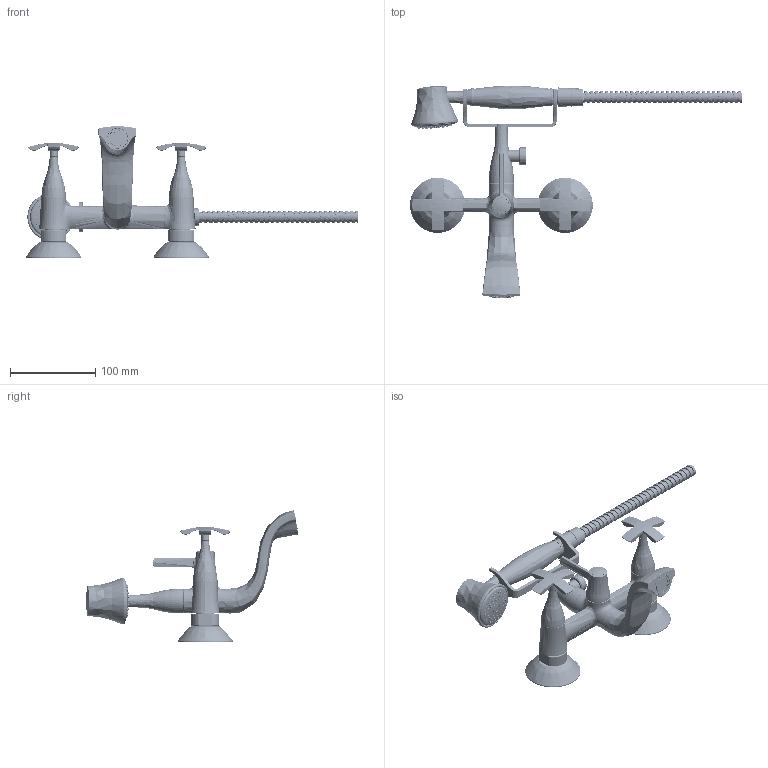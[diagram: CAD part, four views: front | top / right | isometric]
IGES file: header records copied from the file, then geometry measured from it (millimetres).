
Start section:  PTC IGES file: 62002.igs
Global section: file name: 62002.igs; native system: Creo Parametric by PTC Inc.; preprocessor: 2022014; author: carloff; organization: Unknown; date: 20260407.134453; units: millimetre
Bounding box: 390.5 x 249.96 x 154.69 mm (x, y, z)
Surface area: 211435.7 mm2 (no closed solid volume)
Topology: 0 solids, 0 shells, 3232 faces, 15654 edges, 15628 vertices
Faces by surface type: revolution 1837, bspline 1393, extrusion 2
